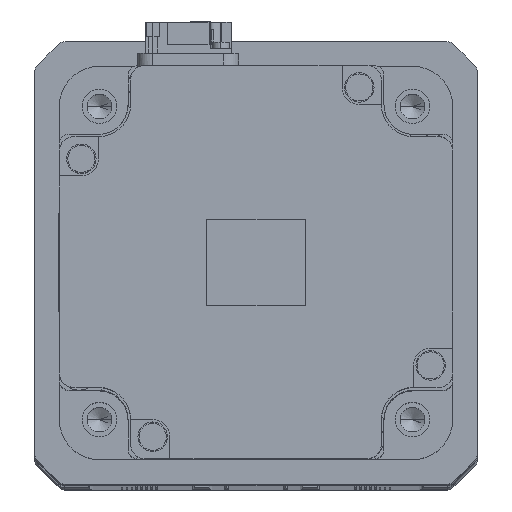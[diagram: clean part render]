
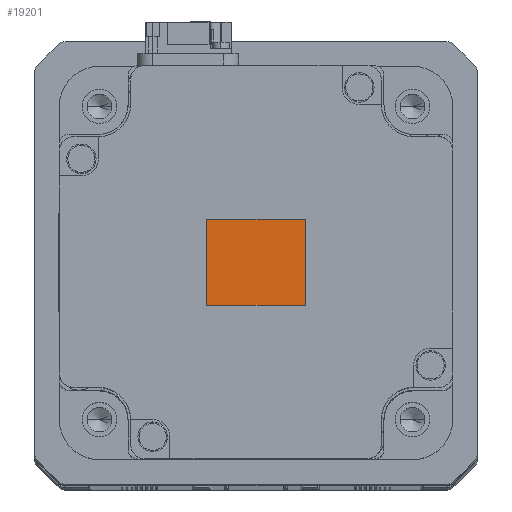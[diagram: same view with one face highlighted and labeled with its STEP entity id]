
A CAD part, top view. The second image highlights one B-rep face of the part: STEP entity #19201.
In plain terms, the highlighted planar face has unit normal (0, 0, 1) as drawn and (0, 0, -1) by its records, which use the part's own axes.
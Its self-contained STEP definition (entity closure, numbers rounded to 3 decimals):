
#442 = PLANE ( 'NONE',  #6289 ) ;
#724 = VERTEX_POINT ( 'NONE', #29616 ) ;
#2012 = VERTEX_POINT ( 'NONE', #3034 ) ;
#2970 = ORIENTED_EDGE ( 'NONE', *, *, #29538, .T. ) ;
#3034 = CARTESIAN_POINT ( 'NONE',  ( -10., 8.75, -115.1 ) ) ;
#3963 = DIRECTION ( 'NONE',  ( 0., 0., -1. ) ) ;
#4380 = CARTESIAN_POINT ( 'NONE',  ( -10., 8.75, -115.1 ) ) ;
#6289 = AXIS2_PLACEMENT_3D ( 'NONE', #38754, #3963, #28373 ) ;
#8380 = VECTOR ( 'NONE', #19629, 1000. ) ;
#9210 = ORIENTED_EDGE ( 'NONE', *, *, #14797, .T. ) ;
#11000 = LINE ( 'NONE', #40704, #29581 ) ;
#12603 = CARTESIAN_POINT ( 'NONE',  ( 10., 8.75, -115.1 ) ) ;
#14465 = LINE ( 'NONE', #17986, #33058 ) ;
#14797 = EDGE_CURVE ( 'NONE', #724, #36586, #17621, .T. ) ;
#17380 = EDGE_LOOP ( 'NONE', ( #33472, #30038, #9210, #2970 ) ) ;
#17621 = LINE ( 'NONE', #12603, #8380 ) ;
#17986 = CARTESIAN_POINT ( 'NONE',  ( 10., 8.75, -115.1 ) ) ;
#19061 = CARTESIAN_POINT ( 'NONE',  ( 10., -8.75, -115.1 ) ) ;
#19201 = ADVANCED_FACE ( 'NONE', ( #19274 ), #442, .T. ) ;
#19274 = FACE_OUTER_BOUND ( 'NONE', #17380, .T. ) ;
#19629 = DIRECTION ( 'NONE',  ( 0., -1., 0. ) ) ;
#19772 = DIRECTION ( 'NONE',  ( -1., 0., 0. ) ) ;
#21308 = VECTOR ( 'NONE', #28931, 1000. ) ;
#28373 = DIRECTION ( 'NONE',  ( -1., 0., 0. ) ) ;
#28931 = DIRECTION ( 'NONE',  ( 0., 1., 0. ) ) ;
#29538 = EDGE_CURVE ( 'NONE', #36586, #33969, #11000, .T. ) ;
#29581 = VECTOR ( 'NONE', #19772, 1000. ) ;
#29616 = CARTESIAN_POINT ( 'NONE',  ( 10., 8.75, -115.1 ) ) ;
#30038 = ORIENTED_EDGE ( 'NONE', *, *, #43140, .T. ) ;
#30619 = LINE ( 'NONE', #4380, #21308 ) ;
#33058 = VECTOR ( 'NONE', #42486, 1000. ) ;
#33472 = ORIENTED_EDGE ( 'NONE', *, *, #41141, .T. ) ;
#33969 = VERTEX_POINT ( 'NONE', #44280 ) ;
#36586 = VERTEX_POINT ( 'NONE', #19061 ) ;
#38754 = CARTESIAN_POINT ( 'NONE',  ( 10., -8.75, -115.1 ) ) ;
#40704 = CARTESIAN_POINT ( 'NONE',  ( 10., -8.75, -115.1 ) ) ;
#41141 = EDGE_CURVE ( 'NONE', #33969, #2012, #30619, .T. ) ;
#42486 = DIRECTION ( 'NONE',  ( 1., 0., 0. ) ) ;
#43140 = EDGE_CURVE ( 'NONE', #2012, #724, #14465, .T. ) ;
#44280 = CARTESIAN_POINT ( 'NONE',  ( -10., -8.75, -115.1 ) ) ;
